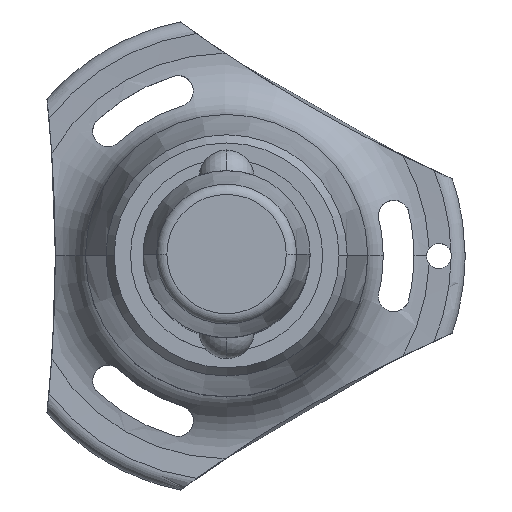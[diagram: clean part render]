
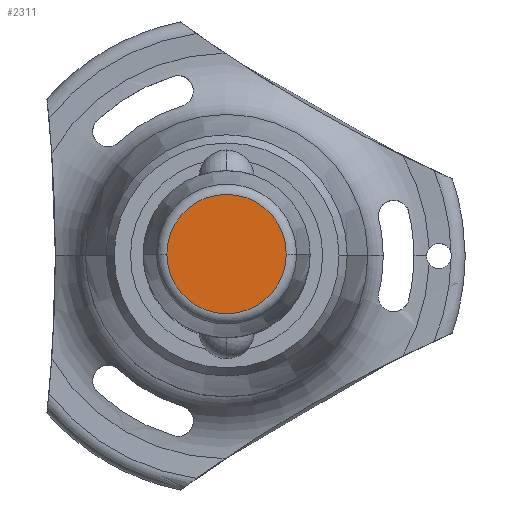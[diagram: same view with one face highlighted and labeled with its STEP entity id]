
A CAD part, top view. The second image highlights one B-rep face of the part: STEP entity #2311.
In plain terms, the highlighted planar face has unit normal (0, 0, 1).
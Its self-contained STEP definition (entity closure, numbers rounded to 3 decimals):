
#140 = EDGE_CURVE ( 'NONE', #2586, #2078, #1325, .T. ) ;
#280 = ORIENTED_EDGE ( 'NONE', *, *, #140, .T. ) ;
#408 = CIRCLE ( 'NONE', #2170, 7.144 ) ;
#427 = DIRECTION ( 'NONE',  ( 0., 0., 1. ) ) ;
#484 = EDGE_CURVE ( 'NONE', #2078, #2586, #408, .T. ) ;
#517 = DIRECTION ( 'NONE',  ( 0., 0., 1. ) ) ;
#542 = DIRECTION ( 'NONE',  ( 1., 0., 0. ) ) ;
#886 = ORIENTED_EDGE ( 'NONE', *, *, #484, .T. ) ;
#1325 = CIRCLE ( 'NONE', #1563, 7.144 ) ;
#1425 = CARTESIAN_POINT ( 'NONE',  ( 0., 0., 20.5 ) ) ;
#1438 = DIRECTION ( 'NONE',  ( 0., 0., 1. ) ) ;
#1563 = AXIS2_PLACEMENT_3D ( 'NONE', #2300, #517, #542 ) ;
#1587 = EDGE_LOOP ( 'NONE', ( #280, #886 ) ) ;
#1645 = CARTESIAN_POINT ( 'NONE',  ( 7.144, 0., 20.5 ) ) ;
#2078 = VERTEX_POINT ( 'NONE', #2096 ) ;
#2096 = CARTESIAN_POINT ( 'NONE',  ( -7.144, 0., 20.5 ) ) ;
#2165 = DIRECTION ( 'NONE',  ( 1., 0., 0. ) ) ;
#2170 = AXIS2_PLACEMENT_3D ( 'NONE', #1425, #1438, #2327 ) ;
#2300 = CARTESIAN_POINT ( 'NONE',  ( 0., 0., 20.5 ) ) ;
#2311 = ADVANCED_FACE ( 'NONE', ( #2822 ), #2395, .T. ) ;
#2327 = DIRECTION ( 'NONE',  ( 1., 0., 0. ) ) ;
#2395 = PLANE ( 'NONE',  #2667 ) ;
#2558 = CARTESIAN_POINT ( 'NONE',  ( 0., 0., 20.5 ) ) ;
#2586 = VERTEX_POINT ( 'NONE', #1645 ) ;
#2667 = AXIS2_PLACEMENT_3D ( 'NONE', #2558, #427, #2165 ) ;
#2822 = FACE_OUTER_BOUND ( 'NONE', #1587, .T. ) ;
